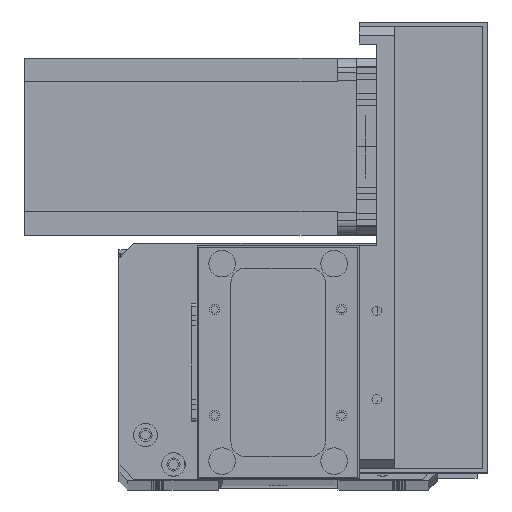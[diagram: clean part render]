
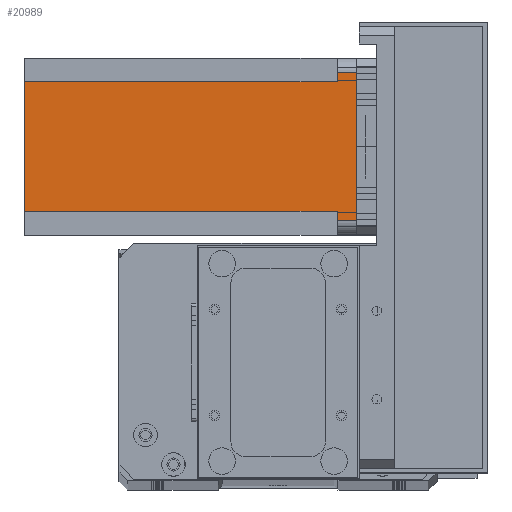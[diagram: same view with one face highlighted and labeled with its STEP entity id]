
A CAD part, top view. The second image highlights one B-rep face of the part: STEP entity #20989.
In plain terms, the highlighted planar face has unit normal (0, 0, 1) as drawn and (0, 1, 0) by its records, which use the part's own axes.
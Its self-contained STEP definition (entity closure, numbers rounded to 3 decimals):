
#211 = EDGE_CURVE ( 'NONE', #13553, #508, #4875, .T. ) ;
#508 = VERTEX_POINT ( 'NONE', #17451 ) ;
#1443 = DIRECTION ( 'NONE',  ( 0., 0., 1. ) ) ;
#1463 = CARTESIAN_POINT ( 'NONE',  ( 5., 60., -6.5 ) ) ;
#2329 = DIRECTION ( 'NONE',  ( -1., 0., 0. ) ) ;
#2490 = ORIENTED_EDGE ( 'NONE', *, *, #9706, .T. ) ;
#4384 = PLANE ( 'NONE',  #6127 ) ;
#4875 = LINE ( 'NONE', #8646, #24143 ) ;
#5354 = CARTESIAN_POINT ( 'NONE',  ( 8., 60., -6.5 ) ) ;
#5591 = EDGE_CURVE ( 'NONE', #11775, #28908, #17954, .T. ) ;
#6127 = AXIS2_PLACEMENT_3D ( 'NONE', #6925, #24480, #9421 ) ;
#6925 = CARTESIAN_POINT ( 'NONE',  ( 0., 60., -112.5 ) ) ;
#7859 = DIRECTION ( 'NONE',  ( -1., 0., 0. ) ) ;
#8583 = FACE_OUTER_BOUND ( 'NONE', #18723, .T. ) ;
#8646 = CARTESIAN_POINT ( 'NONE',  ( 52., 60., -112.5 ) ) ;
#9421 = DIRECTION ( 'NONE',  ( 0., 0., 1. ) ) ;
#9706 = EDGE_CURVE ( 'NONE', #29864, #21216, #20341, .T. ) ;
#10127 = ORIENTED_EDGE ( 'NONE', *, *, #211, .F. ) ;
#11200 = ORIENTED_EDGE ( 'NONE', *, *, #15574, .F. ) ;
#11775 = VERTEX_POINT ( 'NONE', #32324 ) ;
#12135 = LINE ( 'NONE', #18871, #27036 ) ;
#13553 = VERTEX_POINT ( 'NONE', #16728 ) ;
#13938 = CARTESIAN_POINT ( 'NONE',  ( 5., 60., -112.5 ) ) ;
#14174 = ORIENTED_EDGE ( 'NONE', *, *, #5591, .T. ) ;
#15103 = VERTEX_POINT ( 'NONE', #24523 ) ;
#15574 = EDGE_CURVE ( 'NONE', #11775, #21216, #12135, .T. ) ;
#16728 = CARTESIAN_POINT ( 'NONE',  ( 52., 60., -112.5 ) ) ;
#16773 = ORIENTED_EDGE ( 'NONE', *, *, #17348, .F. ) ;
#17341 = DIRECTION ( 'NONE',  ( 0., 0., -1. ) ) ;
#17348 = EDGE_CURVE ( 'NONE', #30771, #15103, #18645, .T. ) ;
#17389 = CARTESIAN_POINT ( 'NONE',  ( 0., 60., -112.5 ) ) ;
#17451 = CARTESIAN_POINT ( 'NONE',  ( 52., 60., -6.5 ) ) ;
#17673 = ORIENTED_EDGE ( 'NONE', *, *, #30852, .T. ) ;
#17771 = VECTOR ( 'NONE', #7859, 1000. ) ;
#17802 = LINE ( 'NONE', #23720, #23690 ) ;
#17954 = LINE ( 'NONE', #18571, #30445 ) ;
#18571 = CARTESIAN_POINT ( 'NONE',  ( 55., 60., -112.5 ) ) ;
#18645 = LINE ( 'NONE', #32298, #19434 ) ;
#18723 = EDGE_LOOP ( 'NONE', ( #11200, #14174, #29967, #10127, #21104, #16773, #17673, #2490 ) ) ;
#18871 = CARTESIAN_POINT ( 'NONE',  ( 0., 60., 0. ) ) ;
#19434 = VECTOR ( 'NONE', #17341, 1000. ) ;
#19554 = VECTOR ( 'NONE', #1443, 1000. ) ;
#19775 = VECTOR ( 'NONE', #2329, 1000. ) ;
#20341 = LINE ( 'NONE', #13938, #19554 ) ;
#20953 = CARTESIAN_POINT ( 'NONE',  ( 5., 60., 0. ) ) ;
#20989 = ADVANCED_FACE ( 'NONE', ( #8583 ), #4384, .T. ) ;
#21104 = ORIENTED_EDGE ( 'NONE', *, *, #30063, .T. ) ;
#21216 = VERTEX_POINT ( 'NONE', #20953 ) ;
#21416 = DIRECTION ( 'NONE',  ( -1., 0., 0. ) ) ;
#22730 = CARTESIAN_POINT ( 'NONE',  ( 8., 60., -6.5 ) ) ;
#23614 = DIRECTION ( 'NONE',  ( 0., 0., -1. ) ) ;
#23690 = VECTOR ( 'NONE', #31214, 1000. ) ;
#23716 = DIRECTION ( 'NONE',  ( 0., 0., 1. ) ) ;
#23720 = CARTESIAN_POINT ( 'NONE',  ( 52., 60., -6.5 ) ) ;
#24143 = VECTOR ( 'NONE', #23716, 1000. ) ;
#24446 = LINE ( 'NONE', #5354, #17771 ) ;
#24480 = DIRECTION ( 'NONE',  ( 0., 1., 0. ) ) ;
#24523 = CARTESIAN_POINT ( 'NONE',  ( 8., 60., -112.5 ) ) ;
#27036 = VECTOR ( 'NONE', #21416, 1000. ) ;
#28908 = VERTEX_POINT ( 'NONE', #29499 ) ;
#29499 = CARTESIAN_POINT ( 'NONE',  ( 55., 60., -6.5 ) ) ;
#29864 = VERTEX_POINT ( 'NONE', #1463 ) ;
#29967 = ORIENTED_EDGE ( 'NONE', *, *, #30406, .F. ) ;
#30063 = EDGE_CURVE ( 'NONE', #13553, #15103, #32284, .T. ) ;
#30406 = EDGE_CURVE ( 'NONE', #508, #28908, #17802, .T. ) ;
#30445 = VECTOR ( 'NONE', #23614, 1000. ) ;
#30771 = VERTEX_POINT ( 'NONE', #22730 ) ;
#30852 = EDGE_CURVE ( 'NONE', #30771, #29864, #24446, .T. ) ;
#31214 = DIRECTION ( 'NONE',  ( 1., 0., 0. ) ) ;
#32284 = LINE ( 'NONE', #17389, #19775 ) ;
#32298 = CARTESIAN_POINT ( 'NONE',  ( 8., 60., -112.5 ) ) ;
#32324 = CARTESIAN_POINT ( 'NONE',  ( 55., 60., 0. ) ) ;
